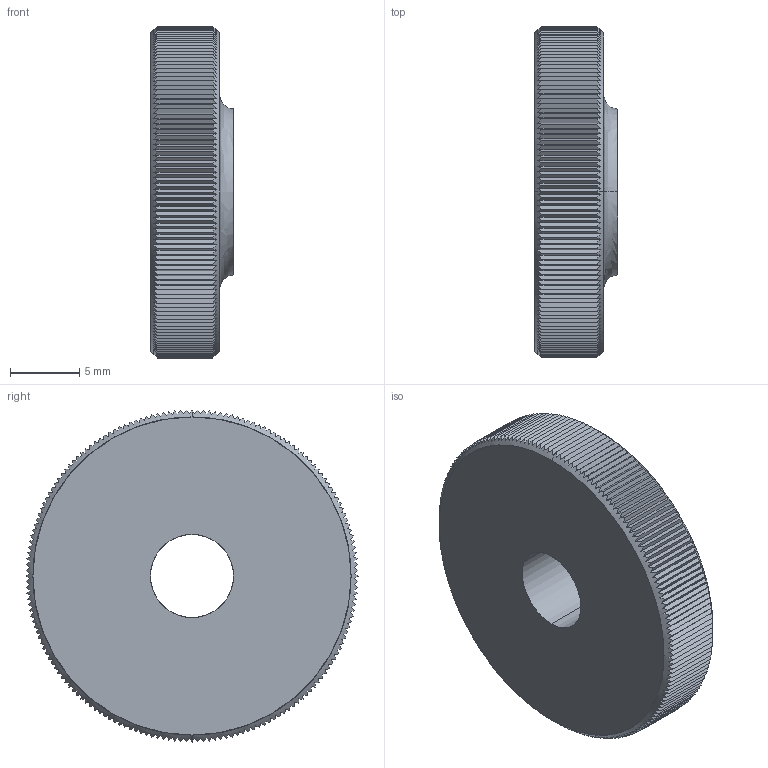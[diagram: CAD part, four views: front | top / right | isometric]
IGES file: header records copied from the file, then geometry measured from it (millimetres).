
Start section: SolidWorks IGES file using analytic representation for surfaces
Global section: file name: C:\Documents and Settings\IANO\Desktop\Temp File\Process pending\EXISTING\37120_v2\37120_v2_20170629_IGES\37120.W0006.igs; native system: SolidWorks 2009; preprocessor: SolidWorks 2009; author: IANO; date: 170627.122146; units: millimetre
Bounding box: 6 x 24 x 24 mm (x, y, z)
Surface area: 1482 mm2 (no closed solid volume)
Topology: 0 solids, 0 shells, 371 faces, 2380 edges, 2380 vertices
Faces by surface type: bspline 365, revolution 6
